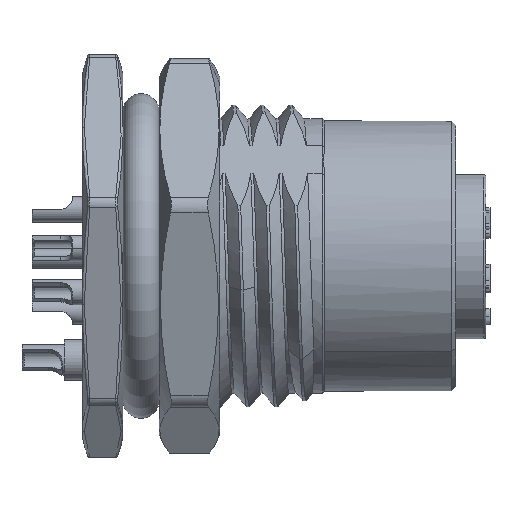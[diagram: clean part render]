
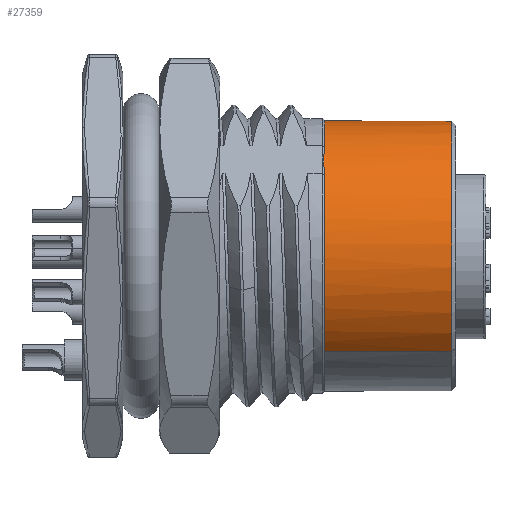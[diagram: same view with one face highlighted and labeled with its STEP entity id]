
A CAD part, top view. The second image highlights one B-rep face of the part: STEP entity #27359.
In plain terms, the highlighted cylindrical face has radius 6.7 mm (diameter 13.4 mm), a partial arc.
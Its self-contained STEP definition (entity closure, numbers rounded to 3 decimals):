
#5354=CARTESIAN_POINT('',(-8.,5.28,4.125));
#5355=CARTESIAN_POINT('',(-8.01,5.232,4.186));
#5356=CARTESIAN_POINT('',(-8.026,5.133,4.308));
#5357=CARTESIAN_POINT('',(-8.042,4.98,4.485));
#5358=CARTESIAN_POINT('',(-8.05,4.82,4.655));
#5359=CARTESIAN_POINT('',(-8.05,4.655,4.82));
#5360=CARTESIAN_POINT('',(-8.042,4.485,4.98));
#5361=CARTESIAN_POINT('',(-8.026,4.308,5.133));
#5362=CARTESIAN_POINT('',(-8.01,4.186,5.232));
#5363=CARTESIAN_POINT('',(-8.,4.125,5.28));
#5376=CARTESIAN_POINT('',(-1.7,0.,0.));
#5377=DIRECTION('',(-1.,0.,0.));
#5378=DIRECTION('',(0.,-0.707,0.707));
#5379=AXIS2_PLACEMENT_3D('',#5376,#5377,#5378);
#5385=CARTESIAN_POINT('',(-8.,0.,0.));
#5386=DIRECTION('',(1.,0.,0.));
#5387=DIRECTION('',(0.,0.616,0.788));
#5388=AXIS2_PLACEMENT_3D('',#5385,#5386,#5387);
#5395=CARTESIAN_POINT('',(-8.,0.,0.));
#5396=DIRECTION('',(1.,0.,0.));
#5397=DIRECTION('',(0.,0.707,-0.707));
#5398=AXIS2_PLACEMENT_3D('',#5395,#5396,#5397);
#5409=DIRECTION('',(-1.,0.,0.));
#5410=VECTOR('',#5409,6.3);
#5411=CARTESIAN_POINT('',(-1.7,4.738,
-4.738));
#5412=LINE('',#5411,#5410);
#5413=DIRECTION('',(-1.,0.,0.));
#5414=VECTOR('',#5413,6.3);
#5415=CARTESIAN_POINT('',(-1.7,-4.738,
4.738));
#5416=LINE('',#5415,#5414);
#20166=CARTESIAN_POINT('',(-8.,4.738,-4.738));
#20167=CARTESIAN_POINT('',(-8.,-4.738,4.738));
#20168=VERTEX_POINT('',#20166);
#20169=VERTEX_POINT('',#20167);
#20351=CARTESIAN_POINT('',(-1.7,-4.738,4.738));
#20352=CARTESIAN_POINT('',(-1.7,4.738,-4.738));
#20353=VERTEX_POINT('',#20351);
#20354=VERTEX_POINT('',#20352);
#20766=CARTESIAN_POINT('',(-8.,4.125,5.28));
#20768=VERTEX_POINT('',#20766);
#20771=CARTESIAN_POINT('',(-8.,5.28,4.125));
#20773=VERTEX_POINT('',#20771);
#27341=CARTESIAN_POINT('',(-18.825,0.,0.));
#27342=DIRECTION('',(1.,0.,0.));
#27343=DIRECTION('',(0.,-0.707,0.707));
#27344=AXIS2_PLACEMENT_3D('',#27341,#27342,#27343);
#27345=CYLINDRICAL_SURFACE('',#27344,6.7);
#27347=ORIENTED_EDGE('',*,*,#27346,.F.);
#27348=ORIENTED_EDGE('',*,*,#27322,.F.);
#27350=ORIENTED_EDGE('',*,*,#27349,.F.);
#27352=ORIENTED_EDGE('',*,*,#27351,.F.);
#27354=ORIENTED_EDGE('',*,*,#27353,.F.);
#27356=ORIENTED_EDGE('',*,*,#27355,.T.);
#27357=EDGE_LOOP('',(#27347,#27348,#27350,#27352,#27354,#27356));
#27358=FACE_OUTER_BOUND('',#27357,.F.);
#27359=ADVANCED_FACE('',(#27358),#27345,.T.);
#5364=B_SPLINE_CURVE_WITH_KNOTS('',3,(#5354,#5355,#5356,#5357,#5358,#5359,#5360,
#5361,#5362,#5363),.UNSPECIFIED.,.F.,.F.,(4,1,1,1,1,1,1,4),(0.,
0.143,0.286,0.429,0.571,
0.714,0.857,1.),.UNSPECIFIED.);
#5380=CIRCLE('',#5379,6.7);
#5389=CIRCLE('',#5388,6.7);
#5399=CIRCLE('',#5398,6.7);
#27322=EDGE_CURVE('',#20773,#20768,#5364,.T.);
#27346=EDGE_CURVE('',#20768,#20169,#5389,.T.);
#27349=EDGE_CURVE('',#20168,#20773,#5399,.T.);
#27351=EDGE_CURVE('',#20354,#20168,#5412,.T.);
#27353=EDGE_CURVE('',#20353,#20354,#5380,.T.);
#27355=EDGE_CURVE('',#20353,#20169,#5416,.T.);
